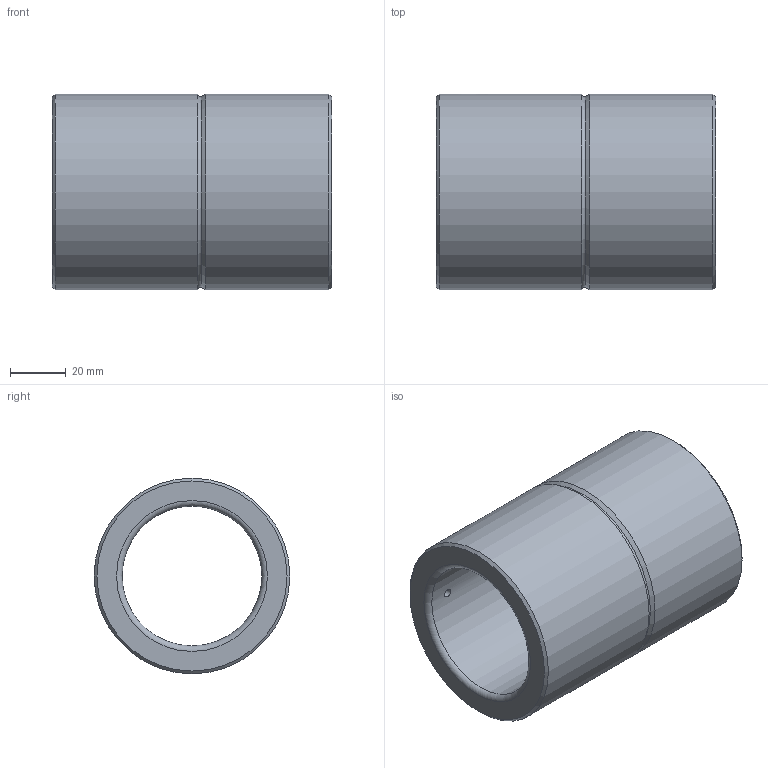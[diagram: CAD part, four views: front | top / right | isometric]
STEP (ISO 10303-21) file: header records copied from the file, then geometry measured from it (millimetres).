
FILE_DESCRIPTION( ( 'STEP AP214' ), '1' );
FILE_NAME( 'p:/temp/worker_344/temp/exporttempdir_3784_946_Ao9X5/format_0/WZ 4068 50 x 100.stp', '2020-11-26T19:23:34', ( 'License CC BY-ND 4.0' ), ( 'CADENAS' ), ' ', 'PARTsolutions', ' ' );
FILE_SCHEMA( ( 'AUTOMOTIVE_DESIGN { 1 0 10303 214 1 1 1 1 }' ) );
Length unit declared in the file: millimetre
Products named in the file (1): _WZ 4068 50 x 100
Bounding box: 100 x 70.04 x 70.04 mm (x, y, z)
Volume: 179829.4 mm3; surface area: 41655.1 mm2
Topology: 1 solids, 1 shells, 16 faces, 29 edges, 17 vertices
Faces by surface type: cylinder 6, cone 4, plane 4, torus 2
Full cylindrical faces by diameter (mm): 3 x1, 5 x1, 50 x1, 52 x1, 70.04 x2
Entity records: 590 total; most frequent: CARTESIAN_POINT 161, DIRECTION 64, EDGE_LOOP 34, ORIENTED_EDGE 34, AXIS2_PLACEMENT_3D 32, FACE_OUTER_BOUND 24, EDGE_CURVE 17, VERTEX_POINT 17
